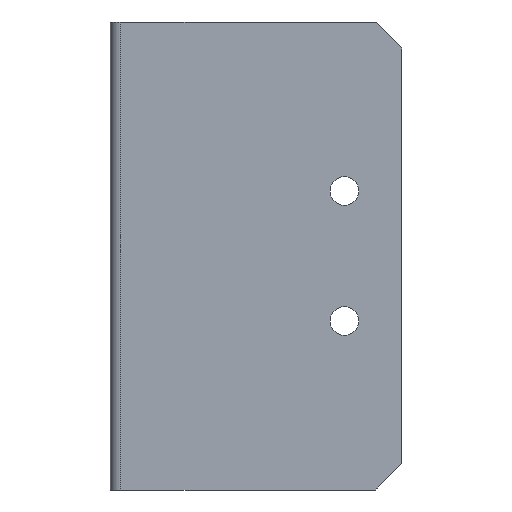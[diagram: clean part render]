
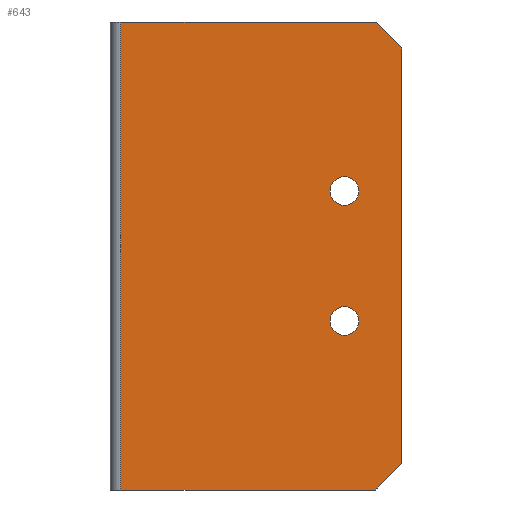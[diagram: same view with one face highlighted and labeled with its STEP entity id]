
A CAD part, front view. The second image highlights one B-rep face of the part: STEP entity #643.
In plain terms, the highlighted planar face has unit normal (0, -1, 0).
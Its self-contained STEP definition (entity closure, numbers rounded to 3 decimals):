
#3 = DIRECTION ( 'NONE',  ( 0., 0., 1. ) ) ;
#9 = CARTESIAN_POINT ( 'NONE',  ( 55., -1., -40. ) ) ;
#10 = CARTESIAN_POINT ( 'NONE',  ( 44., -1., 12.5 ) ) ;
#12 = ORIENTED_EDGE ( 'NONE', *, *, #110, .T. ) ;
#37 = CIRCLE ( 'NONE', #723, 2.75 ) ;
#40 = EDGE_LOOP ( 'NONE', ( #274, #601 ) ) ;
#51 = ORIENTED_EDGE ( 'NONE', *, *, #468, .F. ) ;
#58 = CARTESIAN_POINT ( 'NONE',  ( 44., -1., -12.5 ) ) ;
#75 = DIRECTION ( 'NONE',  ( 1., 0., 0. ) ) ;
#93 = CARTESIAN_POINT ( 'NONE',  ( 44., -1., -9.75 ) ) ;
#94 = ORIENTED_EDGE ( 'NONE', *, *, #535, .T. ) ;
#107 = DIRECTION ( 'NONE',  ( 0., 1., 0. ) ) ;
#110 = EDGE_CURVE ( 'NONE', #557, #792, #362, .T. ) ;
#137 = CARTESIAN_POINT ( 'NONE',  ( 55., -1., 45. ) ) ;
#145 = VECTOR ( 'NONE', #303, 1000. ) ;
#172 = VERTEX_POINT ( 'NONE', #197 ) ;
#197 = CARTESIAN_POINT ( 'NONE',  ( 1., -1., -45. ) ) ;
#212 = AXIS2_PLACEMENT_3D ( 'NONE', #544, #845, #3 ) ;
#229 = VERTEX_POINT ( 'NONE', #976 ) ;
#233 = LINE ( 'NONE', #305, #799 ) ;
#236 = DIRECTION ( 'NONE',  ( 0., 0., 1. ) ) ;
#238 = VECTOR ( 'NONE', #661, 1000. ) ;
#261 = EDGE_CURVE ( 'NONE', #229, #968, #445, .T. ) ;
#274 = ORIENTED_EDGE ( 'NONE', *, *, #843, .T. ) ;
#275 = EDGE_CURVE ( 'NONE', #731, #968, #371, .T. ) ;
#292 = VECTOR ( 'NONE', #668, 1000. ) ;
#303 = DIRECTION ( 'NONE',  ( -0.707, 0., 0.707 ) ) ;
#305 = CARTESIAN_POINT ( 'NONE',  ( 0., -1., -45. ) ) ;
#309 = CARTESIAN_POINT ( 'NONE',  ( 44., -1., 12.5 ) ) ;
#323 = CARTESIAN_POINT ( 'NONE',  ( 50., -1., 45. ) ) ;
#324 = CARTESIAN_POINT ( 'NONE',  ( 0., -1., 45. ) ) ;
#326 = VECTOR ( 'NONE', #679, 1000. ) ;
#332 = FACE_BOUND ( 'NONE', #40, .T. ) ;
#362 = CIRCLE ( 'NONE', #897, 2.75 ) ;
#365 = EDGE_CURVE ( 'NONE', #172, #944, #233, .T. ) ;
#366 = CARTESIAN_POINT ( 'NONE',  ( 1., -1., 45. ) ) ;
#371 = LINE ( 'NONE', #602, #292 ) ;
#379 = ORIENTED_EDGE ( 'NONE', *, *, #603, .T. ) ;
#387 = DIRECTION ( 'NONE',  ( 0., 1., 0. ) ) ;
#391 = CIRCLE ( 'NONE', #212, 2.75 ) ;
#408 = EDGE_CURVE ( 'NONE', #498, #953, #37, .T. ) ;
#436 = ORIENTED_EDGE ( 'NONE', *, *, #261, .T. ) ;
#442 = LINE ( 'NONE', #366, #238 ) ;
#445 = LINE ( 'NONE', #744, #145 ) ;
#456 = FACE_OUTER_BOUND ( 'NONE', #677, .T. ) ;
#468 = EDGE_CURVE ( 'NONE', #229, #707, #902, .T. ) ;
#486 = CARTESIAN_POINT ( 'NONE',  ( 1., -1., 45. ) ) ;
#495 = DIRECTION ( 'NONE',  ( 0., 0., 1. ) ) ;
#498 = VERTEX_POINT ( 'NONE', #975 ) ;
#535 = EDGE_CURVE ( 'NONE', #731, #172, #442, .T. ) ;
#544 = CARTESIAN_POINT ( 'NONE',  ( 44., -1., -12.5 ) ) ;
#549 = CARTESIAN_POINT ( 'NONE',  ( 50., -1., -45. ) ) ;
#557 = VERTEX_POINT ( 'NONE', #969 ) ;
#601 = ORIENTED_EDGE ( 'NONE', *, *, #408, .T. ) ;
#602 = CARTESIAN_POINT ( 'NONE',  ( 0., -1., 45. ) ) ;
#603 = EDGE_CURVE ( 'NONE', #792, #557, #391, .T. ) ;
#643 = ADVANCED_FACE ( 'NONE', ( #332, #906, #456 ), #834, .F. ) ;
#644 = CARTESIAN_POINT ( 'NONE',  ( 44., -1., 15.25 ) ) ;
#659 = ORIENTED_EDGE ( 'NONE', *, *, #365, .T. ) ;
#661 = DIRECTION ( 'NONE',  ( 0., 0., -1. ) ) ;
#662 = DIRECTION ( 'NONE',  ( 0., 1., 0. ) ) ;
#668 = DIRECTION ( 'NONE',  ( 1., 0., 0. ) ) ;
#677 = EDGE_LOOP ( 'NONE', ( #659, #977, #51, #436, #789, #94 ) ) ;
#679 = DIRECTION ( 'NONE',  ( 0., 0., -1. ) ) ;
#693 = DIRECTION ( 'NONE',  ( 0., 1., 0. ) ) ;
#707 = VERTEX_POINT ( 'NONE', #9 ) ;
#708 = LINE ( 'NONE', #549, #866 ) ;
#723 = AXIS2_PLACEMENT_3D ( 'NONE', #309, #387, #985 ) ;
#731 = VERTEX_POINT ( 'NONE', #486 ) ;
#744 = CARTESIAN_POINT ( 'NONE',  ( 55., -1., 40. ) ) ;
#789 = ORIENTED_EDGE ( 'NONE', *, *, #275, .F. ) ;
#792 = VERTEX_POINT ( 'NONE', #93 ) ;
#799 = VECTOR ( 'NONE', #75, 1000. ) ;
#834 = PLANE ( 'NONE',  #974 ) ;
#843 = EDGE_CURVE ( 'NONE', #953, #498, #880, .T. ) ;
#845 = DIRECTION ( 'NONE',  ( 0., 1., 0. ) ) ;
#848 = CARTESIAN_POINT ( 'NONE',  ( 50., -1., -45. ) ) ;
#866 = VECTOR ( 'NONE', #871, 1000. ) ;
#867 = EDGE_LOOP ( 'NONE', ( #379, #12 ) ) ;
#871 = DIRECTION ( 'NONE',  ( 0.707, 0., 0.707 ) ) ;
#880 = CIRCLE ( 'NONE', #920, 2.75 ) ;
#897 = AXIS2_PLACEMENT_3D ( 'NONE', #58, #662, #960 ) ;
#902 = LINE ( 'NONE', #137, #326 ) ;
#906 = FACE_BOUND ( 'NONE', #867, .T. ) ;
#920 = AXIS2_PLACEMENT_3D ( 'NONE', #10, #107, #495 ) ;
#944 = VERTEX_POINT ( 'NONE', #848 ) ;
#953 = VERTEX_POINT ( 'NONE', #644 ) ;
#960 = DIRECTION ( 'NONE',  ( 0., 0., 1. ) ) ;
#961 = EDGE_CURVE ( 'NONE', #944, #707, #708, .T. ) ;
#968 = VERTEX_POINT ( 'NONE', #323 ) ;
#969 = CARTESIAN_POINT ( 'NONE',  ( 44., -1., -15.25 ) ) ;
#974 = AXIS2_PLACEMENT_3D ( 'NONE', #324, #693, #236 ) ;
#975 = CARTESIAN_POINT ( 'NONE',  ( 44., -1., 9.75 ) ) ;
#976 = CARTESIAN_POINT ( 'NONE',  ( 55., -1., 40. ) ) ;
#977 = ORIENTED_EDGE ( 'NONE', *, *, #961, .T. ) ;
#985 = DIRECTION ( 'NONE',  ( 0., 0., 1. ) ) ;
